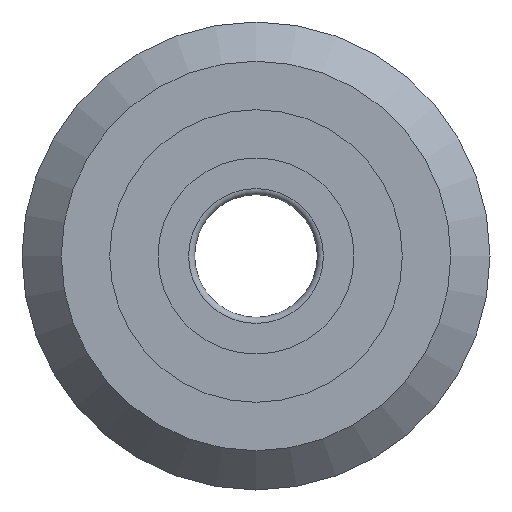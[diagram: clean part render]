
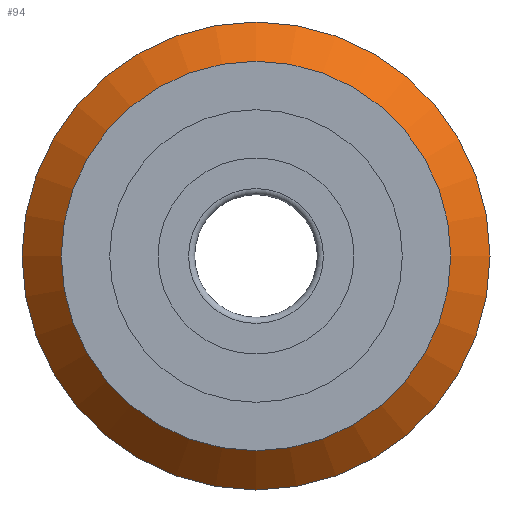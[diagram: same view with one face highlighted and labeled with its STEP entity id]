
A CAD part, front view. The second image highlights one B-rep face of the part: STEP entity #94.
In plain terms, the highlighted conical face has half-angle 45 degrees and reference radius 22.9 mm.
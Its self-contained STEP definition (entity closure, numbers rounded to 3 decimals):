
#94=ADVANCED_FACE('',(#119,#120),#121,.T.);
#119=FACE_OUTER_BOUND('',#185,.T.);
#120=FACE_BOUND('',#186,.T.);
#121=CONICAL_SURFACE('',#187,22.9,0.785);
#185=EDGE_LOOP('',(#253));
#186=EDGE_LOOP('',(#254));
#187=AXIS2_PLACEMENT_3D('',#255,#256,#257);
#253=ORIENTED_EDGE('',*,*,#360,.T.);
#254=ORIENTED_EDGE('',*,*,#358,.F.);
#255=CARTESIAN_POINT('',(0.,-4.1,0.0));
#256=DIRECTION('',(0.,1.0,-0.0));
#257=DIRECTION('',(-1.0,0.,0.0));
#358=EDGE_CURVE('',#380,#380,#381,.T.);
#360=EDGE_CURVE('',#384,#384,#385,.T.);
#380=VERTEX_POINT('',#424);
#381=CIRCLE('',#425,19.06);
#384=VERTEX_POINT('',#428);
#385=CIRCLE('',#429,22.9);
#424=CARTESIAN_POINT('',(19.06,-7.94,0.0));
#425=AXIS2_PLACEMENT_3D('',#468,#469,#470);
#428=CARTESIAN_POINT('',(22.9,-4.1,0.0));
#429=AXIS2_PLACEMENT_3D('',#474,#475,#476);
#468=CARTESIAN_POINT('',(0.,-7.94,0.0));
#469=DIRECTION('',(0.,-1.0,0.0));
#470=DIRECTION('',(1.0,0.,0.0));
#474=CARTESIAN_POINT('',(0.,-4.1,0.0));
#475=DIRECTION('',(0.,-1.0,0.0));
#476=DIRECTION('',(1.0,0.,0.0));
